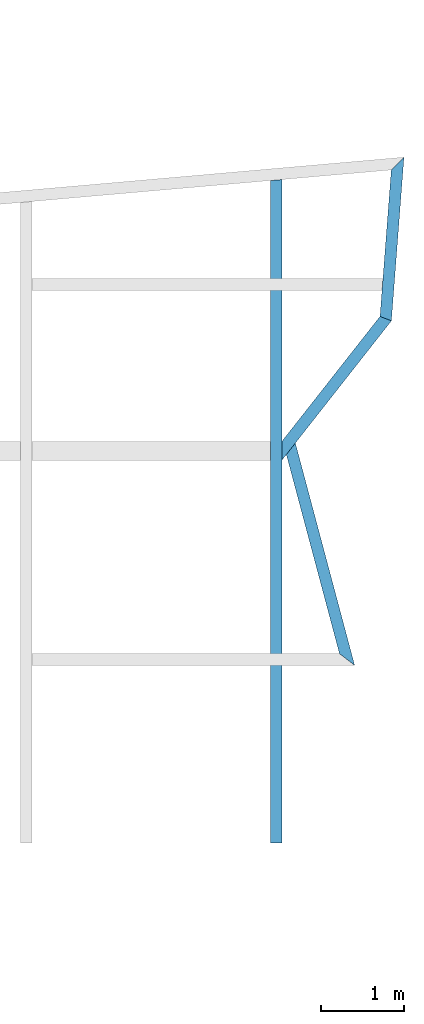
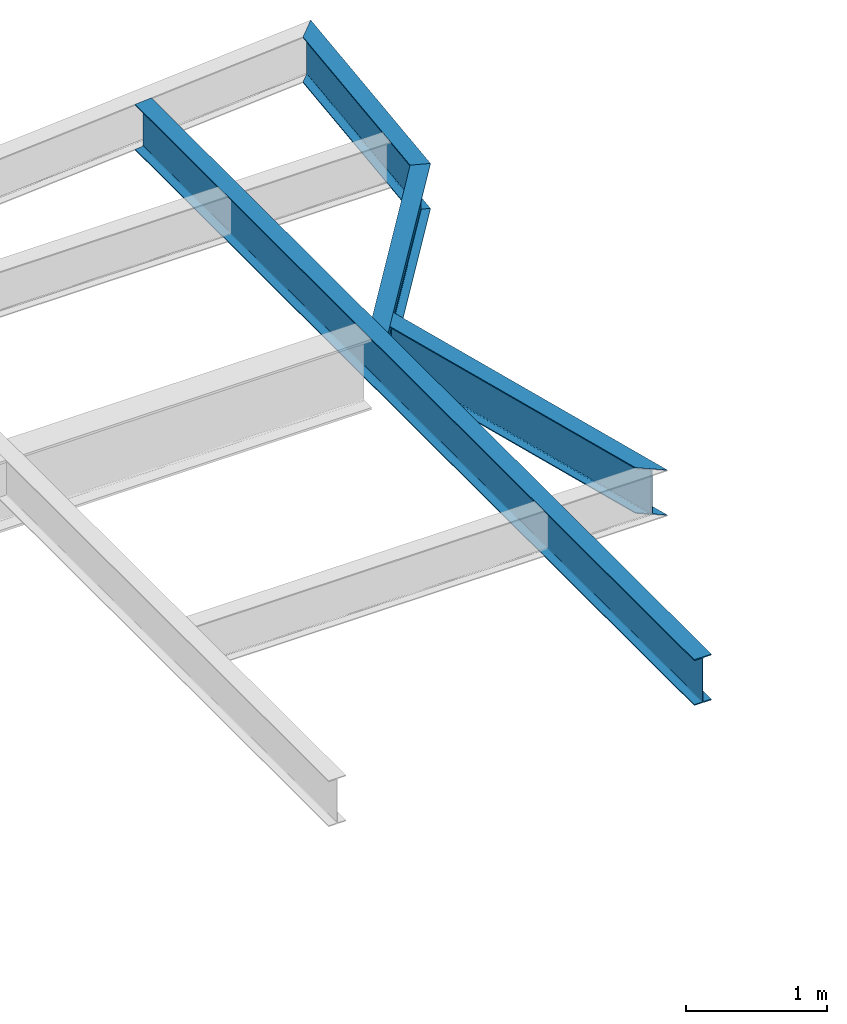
# One storey, part 21 of 21: 4 beams.
"""IFC2X3 building model written with IfcOpenShell, lengths in millimetres."""

from ifc_helpers import new_model, si_unit, origin, place, context, project, spatial, faceted_brep, material, element, save


model = new_model("IFC2X3")

# Units and contexts
context_of_model = context(None, 3, precision=1e-05, world=origin())
ifc_project = project(units=[si_unit("LENGTHUNIT", "METRE", prefix="MILLI")], contexts=[context_of_model])

# Building, storey
building = spatial("IfcBuilding", under=ifc_project, Name="Building", CompositionType="ELEMENT")
storey = spatial("IfcBuildingStorey", under=building, Name="FL3-FRM", CompositionType="ELEMENT")

# Beams
ifc_material_1 = material(Name="A992")
beam_1_placement = place(None, origin())
element("IfcBeam", 1, at=beam_1_placement, inside=storey, material=ifc_material_1, Name="B1037", context=context_of_model, shape_type="Brep", body=[
    faceted_brep([(83930.0, 30246.2, 8474.0), (84070.0, 30258.5, 8474.0), (84070.0, 22300.0, 8474.0), (83930.0, 22300.0, 8474.0), (84070.0, 30258.5, 8482.8), (84070.0, 22300.0, 8482.8), (84013.4, 30253.5, 8482.8), (84013.4, 22300.0, 8482.8), (84011.9, 30253.4, 8482.9), (84011.9, 22300.0, 8482.9), (84010.5, 30253.3, 8483.21), (84010.5, 22300.0, 8483.21), (84009.2, 30253.2, 8483.72), (84009.2, 22300.0, 8483.72), (84007.9, 30253.1, 8484.42), (84007.9, 22300.0, 8484.42), (84006.7, 30253.0, 8485.29), (84006.7, 22300.0, 8485.29), (84005.7, 30252.9, 8486.32), (84005.7, 22300.0, 8486.32), (84004.8, 30252.8, 8487.49), (84004.8, 22300.0, 8487.49), (84004.1, 30252.7, 8488.76), (84004.1, 22300.0, 8488.76), (84003.6, 30252.7, 8490.13), (84003.6, 22300.0, 8490.13), (84003.3, 30252.7, 8491.55), (84003.3, 22300.0, 8491.55), (84003.2, 30252.7, 8493.0), (84003.2, 22300.0, 8493.0), (84003.2, 30252.7, 8854.0), (84003.2, 22300.0, 8854.0), (84003.3, 30252.7, 8855.45), (84003.3, 22300.0, 8855.45), (84003.6, 30252.7, 8856.87), (84003.6, 22300.0, 8856.87), (84004.1, 30252.7, 8858.24), (84004.1, 22300.0, 8858.24), (84004.8, 30252.8, 8859.51), (84004.8, 22300.0, 8859.51), (84005.7, 30252.9, 8860.68), (84005.7, 22300.0, 8860.68), (84006.7, 30253.0, 8861.71), (84006.7, 22300.0, 8861.71), (84007.9, 30253.1, 8862.58), (84007.9, 22300.0, 8862.58), (84009.2, 30253.2, 8863.28), (84009.2, 22300.0, 8863.28), (84010.5, 30253.3, 8863.79), (84010.5, 22300.0, 8863.79), (84011.9, 30253.4, 8864.1), (84011.9, 22300.0, 8864.1), (84013.4, 30253.5, 8864.2), (84013.4, 22300.0, 8864.2), (84070.0, 30258.5, 8864.2), (84070.0, 22300.0, 8864.2), (84070.0, 30258.5, 8873.0), (84070.0, 22300.0, 8873.0), (83930.0, 30246.2, 8873.0), (83930.0, 22300.0, 8873.0), (83930.0, 30246.2, 8864.2), (83930.0, 22300.0, 8864.2), (83986.6, 30251.2, 8864.2), (83986.6, 22300.0, 8864.2), (83988.1, 30251.3, 8864.1), (83988.1, 22300.0, 8864.1), (83989.5, 30251.4, 8863.79), (83989.5, 22300.0, 8863.79), (83990.8, 30251.6, 8863.28), (83990.8, 22300.0, 8863.28), (83992.1, 30251.7, 8862.58), (83992.1, 22300.0, 8862.58), (83993.3, 30251.8, 8861.71), (83993.3, 22300.0, 8861.71), (83994.3, 30251.9, 8860.68), (83994.3, 22300.0, 8860.68), (83995.2, 30251.9, 8859.51), (83995.2, 22300.0, 8859.51), (83995.9, 30252.0, 8858.24), (83995.9, 22300.0, 8858.24), (83996.4, 30252.1, 8856.87), (83996.4, 22300.0, 8856.87), (83996.7, 30252.1, 8855.45), (83996.7, 22300.0, 8855.45), (83996.8, 30252.1, 8854.0), (83996.8, 22300.0, 8854.0), (83996.8, 30252.1, 8493.0), (83996.8, 22300.0, 8493.0), (83996.7, 30252.1, 8491.55), (83996.7, 22300.0, 8491.55), (83996.4, 30252.1, 8490.13), (83996.4, 22300.0, 8490.13), (83995.9, 30252.0, 8488.76), (83995.9, 22300.0, 8488.76), (83995.2, 30251.9, 8487.49), (83995.2, 22300.0, 8487.49), (83994.3, 30251.9, 8486.32), (83994.3, 22300.0, 8486.32), (83993.3, 30251.8, 8485.29), (83993.3, 22300.0, 8485.29), (83992.1, 30251.7, 8484.42), (83992.1, 22300.0, 8484.42), (83990.8, 30251.6, 8483.72), (83990.8, 22300.0, 8483.72), (83989.5, 30251.4, 8483.21), (83989.5, 22300.0, 8483.21), (83988.1, 30251.3, 8482.9), (83988.1, 22300.0, 8482.9), (83986.6, 30251.2, 8482.8), (83986.6, 22300.0, 8482.8), (83930.0, 30246.2, 8482.8), (83930.0, 22300.0, 8482.8)], [[[0, 1, 2, 3]], [[1, 4, 5, 2]], [[4, 6, 7, 5]], [[6, 8, 9, 7]], [[8, 10, 11, 9]], [[10, 12, 13, 11]], [[12, 14, 15, 13]], [[14, 16, 17, 15]], [[16, 18, 19, 17]], [[18, 20, 21, 19]], [[20, 22, 23, 21]], [[22, 24, 25, 23]], [[24, 26, 27, 25]], [[26, 28, 29, 27]], [[28, 30, 31, 29]], [[30, 32, 33, 31]], [[32, 34, 35, 33]], [[34, 36, 37, 35]], [[36, 38, 39, 37]], [[38, 40, 41, 39]], [[40, 42, 43, 41]], [[42, 44, 45, 43]], [[44, 46, 47, 45]], [[46, 48, 49, 47]], [[48, 50, 51, 49]], [[50, 52, 53, 51]], [[52, 54, 55, 53]], [[54, 56, 57, 55]], [[56, 58, 59, 57]], [[58, 60, 61, 59]], [[60, 62, 63, 61]], [[62, 64, 65, 63]], [[64, 66, 67, 65]], [[66, 68, 69, 67]], [[68, 70, 71, 69]], [[70, 72, 73, 71]], [[72, 74, 75, 73]], [[74, 76, 77, 75]], [[76, 78, 79, 77]], [[78, 80, 81, 79]], [[80, 82, 83, 81]], [[82, 84, 85, 83]], [[84, 86, 87, 85]], [[86, 88, 89, 87]], [[88, 90, 91, 89]], [[90, 92, 93, 91]], [[92, 94, 95, 93]], [[94, 96, 97, 95]], [[96, 98, 99, 97]], [[98, 100, 101, 99]], [[100, 102, 103, 101]], [[102, 104, 105, 103]], [[104, 106, 107, 105]], [[106, 108, 109, 107]], [[108, 110, 111, 109]], [[110, 0, 3, 111]], [[0, 110, 108, 106, 104, 102, 100, 98, 96, 94, 92, 90, 88, 86, 84, 82, 80, 78, 76, 74, 72, 70, 68, 66, 64, 62, 60, 58, 56, 54, 52, 50, 48, 46, 44, 42, 40, 38, 36, 34, 32, 30, 28, 26, 24, 22, 20, 18, 16, 14, 12, 10, 8, 6, 4, 1]], [[3, 2, 5, 7, 9, 11, 13, 15, 17, 19, 21, 23, 25, 27, 29, 31, 33, 35, 37, 39, 41, 43, 45, 47, 49, 51, 53, 55, 57, 59, 61, 63, 65, 67, 69, 71, 73, 75, 77, 79, 81, 83, 85, 87, 89, 91, 93, 95, 97, 99, 101, 103, 105, 107, 109, 111]]]),
])
ifc_material_2 = material(Name="A992")
beam_2_placement = place(None, origin())
element("IfcBeam", 2, at=beam_2_placement, inside=storey, material=ifc_material_2, Name="B1039", context=context_of_model, shape_type="Brep", body=[
    faceted_brep([(84121.0, 26959.1, 8474.0), (84229.2, 27096.8, 8474.0), (84940.3, 24430.0, 8474.0), (84758.1, 24570.0, 8474.0), (84229.2, 27096.8, 8482.8), (84940.3, 24430.0, 8482.8), (84185.4, 27041.1, 8482.8), (84866.6, 24486.6, 8482.8), (84184.2, 27039.5, 8482.91), (84864.6, 24488.2, 8482.9), (84183.0, 27038.0, 8483.29), (84862.6, 24489.7, 8483.28), (84181.9, 27036.6, 8483.91), (84860.7, 24491.2, 8483.9), (84180.8, 27035.2, 8484.72), (84858.9, 24492.5, 8484.69), (84179.9, 27034.0, 8485.79), (84857.2, 24493.8, 8485.79), (84179.1, 27033.0, 8486.98), (84856.0, 24494.8, 8486.94), (84178.4, 27032.2, 8488.34), (84854.8, 24495.7, 8488.3), (84178.0, 27031.6, 8489.84), (84854.1, 24496.3, 8489.82), (84177.7, 27031.2, 8491.39), (84853.6, 24496.6, 8491.37), (84177.6, 27031.1, 8493.0), (84853.4, 24496.8, 8493.0), (84177.6, 27031.1, 8854.0), (84853.4, 24496.8, 8854.0), (84177.7, 27031.2, 8855.61), (84853.6, 24496.6, 8855.63), (84178.0, 27031.6, 8857.16), (84854.1, 24496.3, 8857.18), (84178.4, 27032.2, 8858.66), (84854.8, 24495.7, 8858.7), (84179.1, 27033.0, 8860.02), (84856.0, 24494.8, 8860.06), (84179.9, 27034.0, 8861.21), (84857.2, 24493.8, 8861.21), (84180.8, 27035.2, 8862.28), (84858.9, 24492.5, 8862.31), (84181.9, 27036.6, 8863.09), (84860.7, 24491.2, 8863.1), (84183.0, 27038.0, 8863.71), (84862.6, 24489.7, 8863.72), (84184.2, 27039.5, 8864.09), (84864.6, 24488.2, 8864.1), (84185.4, 27041.1, 8864.2), (84866.6, 24486.6, 8864.2), (84229.2, 27096.8, 8864.2), (84940.3, 24430.0, 8864.2), (84229.2, 27096.8, 8873.0), (84940.3, 24430.0, 8873.0), (84121.0, 26959.1, 8873.0), (84758.1, 24570.0, 8873.0), (84121.0, 26959.1, 8864.2), (84758.1, 24570.0, 8864.2), (84164.7, 27014.7, 8864.2), (84831.8, 24513.4, 8864.2), (84166.0, 27016.3, 8864.09), (84833.8, 24511.8, 8864.1), (84167.2, 27017.8, 8863.71), (84835.8, 24510.3, 8863.72), (84168.3, 27019.3, 8863.09), (84837.7, 24508.8, 8863.1), (84169.3, 27020.6, 8862.28), (84839.5, 24507.5, 8862.31), (84170.3, 27021.8, 8861.21), (84841.1, 24506.2, 8861.21), (84171.1, 27022.8, 8860.02), (84842.4, 24505.2, 8860.06), (84171.7, 27023.7, 8858.66), (84843.6, 24504.3, 8858.7), (84172.2, 27024.3, 8857.16), (84844.3, 24503.7, 8857.18), (84172.5, 27024.6, 8855.61), (84844.8, 24503.4, 8855.63), (84172.6, 27024.8, 8854.0), (84845.0, 24503.2, 8854.0), (84172.6, 27024.8, 8493.0), (84845.0, 24503.2, 8493.0), (84172.5, 27024.6, 8491.39), (84844.8, 24503.4, 8491.37), (84172.2, 27024.3, 8489.84), (84844.3, 24503.7, 8489.82), (84171.7, 27023.7, 8488.34), (84843.6, 24504.3, 8488.3), (84171.1, 27022.8, 8486.98), (84842.4, 24505.2, 8486.94), (84170.3, 27021.8, 8485.79), (84841.1, 24506.2, 8485.79), (84169.3, 27020.6, 8484.72), (84839.5, 24507.5, 8484.69), (84168.3, 27019.3, 8483.91), (84837.7, 24508.8, 8483.9), (84167.2, 27017.8, 8483.29), (84835.8, 24510.3, 8483.28), (84166.0, 27016.3, 8482.91), (84833.8, 24511.8, 8482.9), (84164.7, 27014.7, 8482.8), (84831.8, 24513.4, 8482.8), (84121.0, 26959.1, 8482.8), (84758.1, 24570.0, 8482.8)], [[[0, 1, 2, 3]], [[1, 4, 5, 2]], [[4, 6, 7, 5]], [[6, 8, 9, 7]], [[8, 10, 11, 9]], [[10, 12, 13, 11]], [[12, 14, 15, 13]], [[14, 16, 17, 15]], [[16, 18, 19, 17]], [[18, 20, 21, 19]], [[20, 22, 23, 21]], [[22, 24, 25, 23]], [[24, 26, 27, 25]], [[26, 28, 29, 27]], [[28, 30, 31, 29]], [[30, 32, 33, 31]], [[32, 34, 35, 33]], [[34, 36, 37, 35]], [[36, 38, 39, 37]], [[38, 40, 41, 39]], [[40, 42, 43, 41]], [[42, 44, 45, 43]], [[44, 46, 47, 45]], [[46, 48, 49, 47]], [[48, 50, 51, 49]], [[50, 52, 53, 51]], [[52, 54, 55, 53]], [[54, 56, 57, 55]], [[56, 58, 59, 57]], [[58, 60, 61, 59]], [[60, 62, 63, 61]], [[62, 64, 65, 63]], [[64, 66, 67, 65]], [[66, 68, 69, 67]], [[68, 70, 71, 69]], [[70, 72, 73, 71]], [[72, 74, 75, 73]], [[74, 76, 77, 75]], [[76, 78, 79, 77]], [[78, 80, 81, 79]], [[80, 82, 83, 81]], [[82, 84, 85, 83]], [[84, 86, 87, 85]], [[86, 88, 89, 87]], [[88, 90, 91, 89]], [[90, 92, 93, 91]], [[92, 94, 95, 93]], [[94, 96, 97, 95]], [[96, 98, 99, 97]], [[98, 100, 101, 99]], [[100, 102, 103, 101]], [[102, 0, 3, 103]], [[0, 102, 100, 98, 96, 94, 92, 90, 88, 86, 84, 82, 80, 78, 76, 74, 72, 70, 68, 66, 64, 62, 60, 58, 56, 54, 52, 50, 48, 46, 44, 42, 40, 38, 36, 34, 32, 30, 28, 26, 24, 22, 20, 18, 16, 14, 12, 10, 8, 6, 4, 1]], [[3, 2, 5, 7, 9, 11, 13, 15, 17, 19, 21, 23, 25, 27, 29, 31, 33, 35, 37, 39, 41, 43, 45, 47, 49, 51, 53, 55, 57, 59, 61, 63, 65, 67, 69, 71, 73, 75, 77, 79, 81, 83, 85, 87, 89, 91, 93, 95, 97, 99, 101, 103]]]),
])
ifc_material_3 = material(Name="A992")
beam_3_placement = place(None, origin())
element("IfcBeam", 3, at=beam_3_placement, inside=storey, material=ifc_material_3, Name="B1042", context=context_of_model, shape_type="Brep", body=[
    faceted_brep([(85380.1, 30373.4, 8474.0), (85532.4, 30527.3, 8474.0), (85381.3, 28563.1, 8474.0), (85244.9, 28616.2, 8474.0), (85532.4, 30527.3, 8482.8), (85381.3, 28563.1, 8482.8), (85470.8, 30465.1, 8482.8), (85326.2, 28584.5, 8482.8), (85469.3, 30463.5, 8482.88), (85324.7, 28585.1, 8482.9), (85467.7, 30462.0, 8483.19), (85323.4, 28585.6, 8483.21), (85466.2, 30460.5, 8483.72), (85322.0, 28586.1, 8483.72), (85464.9, 30459.1, 8484.38), (85320.8, 28586.6, 8484.42), (85463.6, 30457.8, 8485.25), (85319.7, 28587.1, 8485.29), (85462.5, 30456.7, 8486.3), (85318.7, 28587.5, 8486.32), (85461.5, 30455.7, 8487.41), (85317.8, 28587.8, 8487.48), (85460.7, 30454.9, 8488.73), (85317.1, 28588.1, 8488.76), (85460.2, 30454.4, 8490.1), (85316.6, 28588.2, 8490.12), (85459.9, 30454.1, 8491.52), (85316.3, 28588.4, 8491.55), (85459.7, 30453.9, 8493.0), (85316.2, 28588.4, 8493.0), (85459.7, 30453.9, 8854.0), (85316.2, 28588.4, 8854.0), (85459.9, 30454.1, 8855.48), (85316.3, 28588.4, 8855.45), (85460.2, 30454.4, 8856.9), (85316.6, 28588.2, 8856.88), (85460.7, 30454.9, 8858.27), (85317.1, 28588.1, 8858.24), (85461.5, 30455.7, 8859.59), (85317.8, 28587.8, 8859.52), (85462.5, 30456.7, 8860.7), (85318.7, 28587.5, 8860.68), (85463.6, 30457.8, 8861.75), (85319.7, 28587.1, 8861.71), (85464.9, 30459.1, 8862.62), (85320.8, 28586.6, 8862.58), (85466.2, 30460.5, 8863.28), (85322.0, 28586.1, 8863.28), (85467.7, 30462.0, 8863.81), (85323.4, 28585.6, 8863.79), (85469.3, 30463.5, 8864.12), (85324.7, 28585.1, 8864.1), (85470.8, 30465.1, 8864.2), (85326.2, 28584.5, 8864.2), (85532.4, 30527.3, 8864.2), (85381.3, 28563.1, 8864.2), (85532.4, 30527.3, 8873.0), (85381.3, 28563.1, 8873.0), (85380.1, 30373.4, 8873.0), (85244.9, 28616.2, 8873.0), (85380.1, 30373.4, 8864.2), (85244.9, 28616.2, 8864.2), (85441.7, 30435.7, 8864.2), (85300.1, 28594.7, 8864.2), (85443.2, 30437.2, 8864.12), (85301.5, 28594.1, 8864.1), (85444.8, 30438.8, 8863.81), (85302.9, 28593.6, 8863.79), (85446.3, 30440.3, 8863.28), (85304.2, 28593.1, 8863.28), (85447.6, 30441.7, 8862.62), (85305.4, 28592.6, 8862.58), (85448.9, 30443.0, 8861.75), (85306.6, 28592.2, 8861.71), (85450.0, 30444.1, 8860.7), (85307.6, 28591.8, 8860.68), (85451.0, 30445.0, 8859.59), (85308.4, 28591.4, 8859.52), (85451.8, 30445.8, 8858.27), (85309.1, 28591.2, 8858.24), (85452.3, 30446.4, 8856.9), (85309.6, 28591.0, 8856.88), (85452.6, 30446.7, 8855.48), (85309.9, 28590.9, 8855.45), (85452.8, 30446.9, 8854.0), (85310.0, 28590.8, 8854.0), (85452.8, 30446.9, 8493.0), (85310.0, 28590.8, 8493.0), (85452.6, 30446.7, 8491.52), (85309.9, 28590.9, 8491.55), (85452.3, 30446.4, 8490.1), (85309.6, 28591.0, 8490.12), (85451.8, 30445.8, 8488.73), (85309.1, 28591.2, 8488.76), (85451.0, 30445.0, 8487.41), (85308.4, 28591.4, 8487.48), (85450.0, 30444.1, 8486.3), (85307.6, 28591.8, 8486.32), (85448.9, 30443.0, 8485.25), (85306.6, 28592.2, 8485.29), (85447.6, 30441.7, 8484.38), (85305.4, 28592.6, 8484.42), (85446.3, 30440.3, 8483.72), (85304.2, 28593.1, 8483.72), (85444.8, 30438.8, 8483.19), (85302.9, 28593.6, 8483.21), (85443.2, 30437.2, 8482.88), (85301.5, 28594.1, 8482.9), (85441.7, 30435.7, 8482.8), (85300.1, 28594.7, 8482.8), (85380.1, 30373.4, 8482.8), (85244.9, 28616.2, 8482.8)], [[[0, 1, 2, 3]], [[1, 4, 5, 2]], [[4, 6, 7, 5]], [[6, 8, 9, 7]], [[8, 10, 11, 9]], [[10, 12, 13, 11]], [[12, 14, 15, 13]], [[14, 16, 17, 15]], [[16, 18, 19, 17]], [[18, 20, 21, 19]], [[20, 22, 23, 21]], [[22, 24, 25, 23]], [[24, 26, 27, 25]], [[26, 28, 29, 27]], [[28, 30, 31, 29]], [[30, 32, 33, 31]], [[32, 34, 35, 33]], [[34, 36, 37, 35]], [[36, 38, 39, 37]], [[38, 40, 41, 39]], [[40, 42, 43, 41]], [[42, 44, 45, 43]], [[44, 46, 47, 45]], [[46, 48, 49, 47]], [[48, 50, 51, 49]], [[50, 52, 53, 51]], [[52, 54, 55, 53]], [[54, 56, 57, 55]], [[56, 58, 59, 57]], [[58, 60, 61, 59]], [[60, 62, 63, 61]], [[62, 64, 65, 63]], [[64, 66, 67, 65]], [[66, 68, 69, 67]], [[68, 70, 71, 69]], [[70, 72, 73, 71]], [[72, 74, 75, 73]], [[74, 76, 77, 75]], [[76, 78, 79, 77]], [[78, 80, 81, 79]], [[80, 82, 83, 81]], [[82, 84, 85, 83]], [[84, 86, 87, 85]], [[86, 88, 89, 87]], [[88, 90, 91, 89]], [[90, 92, 93, 91]], [[92, 94, 95, 93]], [[94, 96, 97, 95]], [[96, 98, 99, 97]], [[98, 100, 101, 99]], [[100, 102, 103, 101]], [[102, 104, 105, 103]], [[104, 106, 107, 105]], [[106, 108, 109, 107]], [[108, 110, 111, 109]], [[110, 0, 3, 111]], [[0, 110, 108, 106, 104, 102, 100, 98, 96, 94, 92, 90, 88, 86, 84, 82, 80, 78, 76, 74, 72, 70, 68, 66, 64, 62, 60, 58, 56, 54, 52, 50, 48, 46, 44, 42, 40, 38, 36, 34, 32, 30, 28, 26, 24, 22, 20, 18, 16, 14, 12, 10, 8, 6, 4, 1]], [[3, 2, 5, 7, 9, 11, 13, 15, 17, 19, 21, 23, 25, 27, 29, 31, 33, 35, 37, 39, 41, 43, 45, 47, 49, 51, 53, 55, 57, 59, 61, 63, 65, 67, 69, 71, 73, 75, 77, 79, 81, 83, 85, 87, 89, 91, 93, 95, 97, 99, 101, 103, 105, 107, 109, 111]]]),
])
ifc_material_4 = material(Name="A992")
beam_4_placement = place(None, origin())
element("IfcBeam", 4, at=beam_4_placement, inside=storey, material=ifc_material_4, Name="B1091", context=context_of_model, shape_type="Brep", body=[
    faceted_brep([(85244.9, 28616.2, 8474.0), (85381.3, 28563.1, 8474.0), (84070.0, 26894.2, 8474.0), (84070.0, 27120.8, 8474.0), (85381.3, 28563.1, 8482.8), (84070.0, 26894.2, 8482.8), (85326.2, 28584.5, 8482.8), (84070.0, 26985.8, 8482.8), (85324.7, 28585.1, 8482.9), (84070.0, 26988.1, 8482.88), (85323.4, 28585.6, 8483.21), (84070.0, 26990.4, 8483.19), (85322.0, 28586.1, 8483.72), (84070.0, 26992.6, 8483.72), (85320.8, 28586.6, 8484.42), (84070.0, 26994.6, 8484.37), (85319.7, 28587.1, 8485.29), (84070.0, 26996.6, 8485.24), (85318.7, 28587.5, 8486.32), (84070.0, 26998.2, 8486.29), (85317.8, 28587.8, 8487.48), (84070.0, 26999.6, 8487.4), (85317.1, 28588.1, 8488.76), (84070.0, 27000.8, 8488.72), (85316.6, 28588.2, 8490.12), (84070.0, 27001.6, 8490.1), (85316.3, 28588.4, 8491.55), (84070.0, 27002.1, 8491.52), (85316.2, 28588.4, 8493.0), (84070.0, 27002.3, 8493.0), (85316.2, 28588.4, 8854.0), (84070.0, 27002.3, 8854.0), (85316.3, 28588.4, 8855.45), (84070.0, 27002.1, 8855.48), (85316.6, 28588.2, 8856.88), (84070.0, 27001.6, 8856.9), (85317.1, 28588.1, 8858.24), (84070.0, 27000.8, 8858.28), (85317.8, 28587.8, 8859.52), (84070.0, 26999.6, 8859.6), (85318.7, 28587.5, 8860.68), (84070.0, 26998.2, 8860.71), (85319.7, 28587.1, 8861.71), (84070.0, 26996.6, 8861.76), (85320.8, 28586.6, 8862.58), (84070.0, 26994.6, 8862.63), (85322.0, 28586.1, 8863.28), (84070.0, 26992.6, 8863.28), (85323.4, 28585.6, 8863.79), (84070.0, 26990.4, 8863.81), (85324.7, 28585.1, 8864.1), (84070.0, 26988.1, 8864.12), (85326.2, 28584.5, 8864.2), (84070.0, 26985.8, 8864.2), (85381.3, 28563.1, 8864.2), (84070.0, 26894.2, 8864.2), (85381.3, 28563.1, 8873.0), (84070.0, 26894.2, 8873.0), (85244.9, 28616.2, 8873.0), (84070.0, 27120.8, 8873.0), (85244.9, 28616.2, 8864.2), (84070.0, 27120.8, 8864.2), (85300.1, 28594.7, 8864.2), (84070.0, 27029.2, 8864.2), (85301.5, 28594.1, 8864.1), (84070.0, 27026.8, 8864.12), (85302.9, 28593.6, 8863.79), (84070.0, 27024.5, 8863.81), (85304.2, 28593.1, 8863.28), (84070.0, 27022.3, 8863.28), (85305.4, 28592.6, 8862.58), (84070.0, 27020.3, 8862.63), (85306.6, 28592.2, 8861.71), (84070.0, 27018.4, 8861.76), (85307.6, 28591.8, 8860.68), (84070.0, 27016.7, 8860.71), (85308.4, 28591.4, 8859.52), (84070.0, 27015.3, 8859.6), (85309.1, 28591.2, 8858.24), (84070.0, 27014.2, 8858.28), (85309.6, 28591.0, 8856.88), (84070.0, 27013.4, 8856.9), (85309.9, 28590.9, 8855.45), (84070.0, 27012.9, 8855.48), (85310.0, 28590.8, 8854.0), (84070.0, 27012.7, 8854.0), (85310.0, 28590.8, 8493.0), (84070.0, 27012.7, 8493.0), (85309.9, 28590.9, 8491.55), (84070.0, 27012.9, 8491.52), (85309.6, 28591.0, 8490.12), (84070.0, 27013.4, 8490.1), (85309.1, 28591.2, 8488.76), (84070.0, 27014.2, 8488.72), (85308.4, 28591.4, 8487.48), (84070.0, 27015.3, 8487.4), (85307.6, 28591.8, 8486.32), (84070.0, 27016.7, 8486.29), (85306.6, 28592.2, 8485.29), (84070.0, 27018.4, 8485.24), (85305.4, 28592.6, 8484.42), (84070.0, 27020.3, 8484.37), (85304.2, 28593.1, 8483.72), (84070.0, 27022.3, 8483.72), (85302.9, 28593.6, 8483.21), (84070.0, 27024.5, 8483.19), (85301.5, 28594.1, 8482.9), (84070.0, 27026.8, 8482.88), (85300.1, 28594.7, 8482.8), (84070.0, 27029.2, 8482.8), (85244.9, 28616.2, 8482.8), (84070.0, 27120.8, 8482.8)], [[[0, 1, 2, 3]], [[1, 4, 5, 2]], [[4, 6, 7, 5]], [[6, 8, 9, 7]], [[8, 10, 11, 9]], [[10, 12, 13, 11]], [[12, 14, 15, 13]], [[14, 16, 17, 15]], [[16, 18, 19, 17]], [[18, 20, 21, 19]], [[20, 22, 23, 21]], [[22, 24, 25, 23]], [[24, 26, 27, 25]], [[26, 28, 29, 27]], [[28, 30, 31, 29]], [[30, 32, 33, 31]], [[32, 34, 35, 33]], [[34, 36, 37, 35]], [[36, 38, 39, 37]], [[38, 40, 41, 39]], [[40, 42, 43, 41]], [[42, 44, 45, 43]], [[44, 46, 47, 45]], [[46, 48, 49, 47]], [[48, 50, 51, 49]], [[50, 52, 53, 51]], [[52, 54, 55, 53]], [[54, 56, 57, 55]], [[56, 58, 59, 57]], [[58, 60, 61, 59]], [[60, 62, 63, 61]], [[62, 64, 65, 63]], [[64, 66, 67, 65]], [[66, 68, 69, 67]], [[68, 70, 71, 69]], [[70, 72, 73, 71]], [[72, 74, 75, 73]], [[74, 76, 77, 75]], [[76, 78, 79, 77]], [[78, 80, 81, 79]], [[80, 82, 83, 81]], [[82, 84, 85, 83]], [[84, 86, 87, 85]], [[86, 88, 89, 87]], [[88, 90, 91, 89]], [[90, 92, 93, 91]], [[92, 94, 95, 93]], [[94, 96, 97, 95]], [[96, 98, 99, 97]], [[98, 100, 101, 99]], [[100, 102, 103, 101]], [[102, 104, 105, 103]], [[104, 106, 107, 105]], [[106, 108, 109, 107]], [[108, 110, 111, 109]], [[110, 0, 3, 111]], [[0, 110, 108, 106, 104, 102, 100, 98, 96, 94, 92, 90, 88, 86, 84, 82, 80, 78, 76, 74, 72, 70, 68, 66, 64, 62, 60, 58, 56, 54, 52, 50, 48, 46, 44, 42, 40, 38, 36, 34, 32, 30, 28, 26, 24, 22, 20, 18, 16, 14, 12, 10, 8, 6, 4, 1]], [[3, 2, 5, 7, 9, 11, 13, 15, 17, 19, 21, 23, 25, 27, 29, 31, 33, 35, 37, 39, 41, 43, 45, 47, 49, 51, 53, 55, 57, 59, 61, 63, 65, 67, 69, 71, 73, 75, 77, 79, 81, 83, 85, 87, 89, 91, 93, 95, 97, 99, 101, 103, 105, 107, 109, 111]]]),
])

save(model, "model.ifc")
